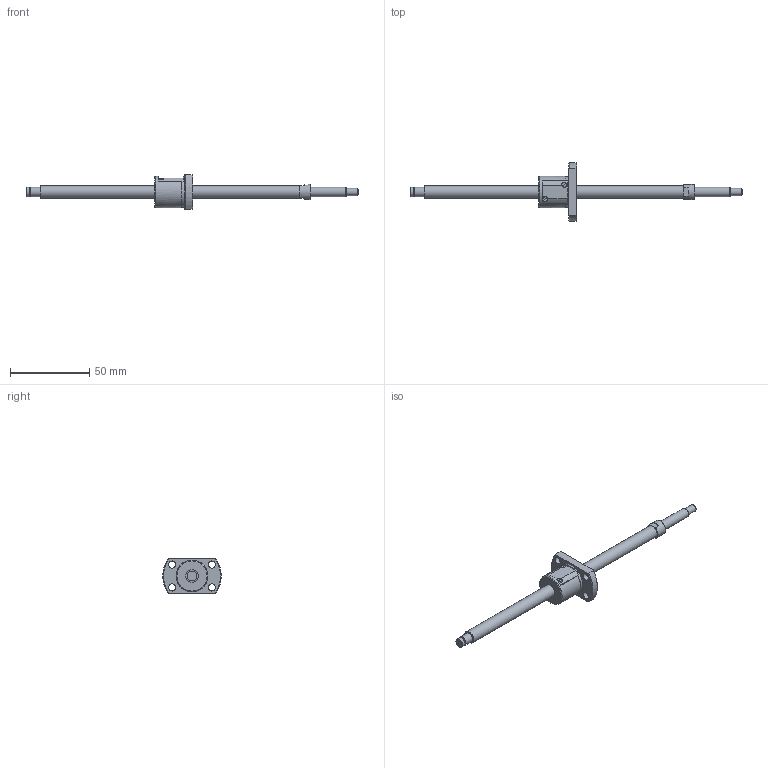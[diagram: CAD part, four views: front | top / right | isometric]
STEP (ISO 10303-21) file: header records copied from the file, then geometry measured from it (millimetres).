
FILE_DESCRIPTION(/* description */ ('STEP AP214'),/* implementation_level */ '2;1');
FILE_NAME(/* name */ 'PSRT0802-160R210C5B0X(B72.5)',/* time_stamp */ '2026-08-06T16:12:57+02:00',/* author */ ('License CC BY-ND 4.0'),/* organization */ ('CADENAS'),/* preprocessor_version */ 'ST-DEVELOPER v20',/* originating_system */ 'PARTsolutions',/* authorisation */ ' ');
FILE_SCHEMA (('AUTOMOTIVE_DESIGN {1 0 10303 214 3 1 1}'));
Length unit declared in the file: millimetre
Products named in the file (3): PSRT0802-160R210C5B0X(B72.5); PSRT0802B210_shaft; PSR0802_nut
Assembly tree (2 placements, depth 2):
  PSRT0802-160R210C5B0X(B72.5)
    PSRT0802B210_shaft
    PSR0802_nut
Bounding box: 210 x 37 x 22 mm (x, y, z)
Volume: 17767.9 mm3; surface area: 9171 mm2
Topology: 2 solids, 2 shells, 73 faces, 175 edges, 114 vertices
Faces by surface type: plane 36, cylinder 28, cone 8, torus 1
Full cylindrical faces by diameter (mm): 3.2 x2, 4.5 x5, 5.7 x1, 6 x3, 8 x2, 9.5 x1, 19.6 x1, 20 x1
Entity records: 2101 total; most frequent: CARTESIAN_POINT 374, DIRECTION 362, ORIENTED_EDGE 298, EDGE_CURVE 149, AXIS2_PLACEMENT_3D 147, EDGE_LOOP 112, FACE_BOUND 112, VERTEX_POINT 109
